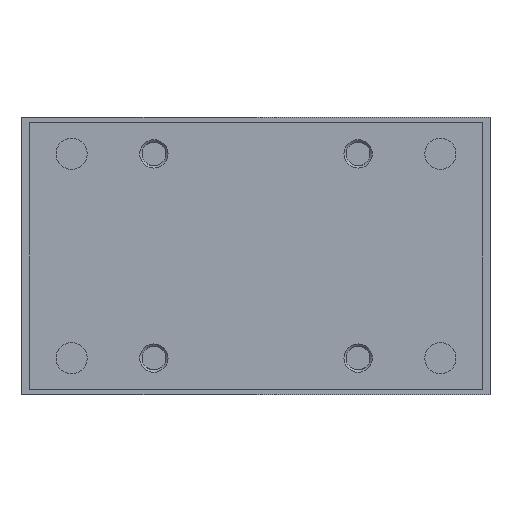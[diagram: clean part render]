
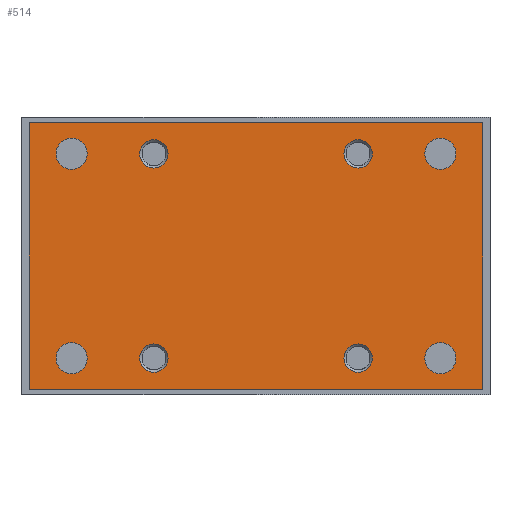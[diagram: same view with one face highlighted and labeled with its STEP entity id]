
A CAD part, left-side view. The second image highlights one B-rep face of the part: STEP entity #514.
In plain terms, the highlighted planar face has unit normal (-1, 0, 0).
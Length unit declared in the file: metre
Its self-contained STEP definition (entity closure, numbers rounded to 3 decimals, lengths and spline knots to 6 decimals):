
#514 = ADVANCED_FACE( '', ( #1238, #1239, #1240, #1241, #1242, #1243, #1244, #1245, #1246 ), #1247, .F. );
#1238 = FACE_BOUND( '', #2196, .T. );
#1239 = FACE_BOUND( '', #2197, .T. );
#1240 = FACE_BOUND( '', #2198, .T. );
#1241 = FACE_BOUND( '', #2199, .T. );
#1242 = FACE_BOUND( '', #2200, .T. );
#1243 = FACE_BOUND( '', #2201, .T. );
#1244 = FACE_BOUND( '', #2202, .T. );
#1245 = FACE_BOUND( '', #2203, .T. );
#1246 = FACE_OUTER_BOUND( '', #2204, .T. );
#1247 = PLANE( '', #2205 );
#2196 = EDGE_LOOP( '', ( #3555 ) );
#2197 = EDGE_LOOP( '', ( #3556 ) );
#2198 = EDGE_LOOP( '', ( #3557 ) );
#2199 = EDGE_LOOP( '', ( #3558 ) );
#2200 = EDGE_LOOP( '', ( #3559 ) );
#2201 = EDGE_LOOP( '', ( #3560 ) );
#2202 = EDGE_LOOP( '', ( #3561 ) );
#2203 = EDGE_LOOP( '', ( #3562 ) );
#2204 = EDGE_LOOP( '', ( #3563, #3564, #3565, #3566 ) );
#2205 = AXIS2_PLACEMENT_3D( '', #3567, #3568, #3569 );
#3555 = ORIENTED_EDGE( '', *, *, #4889, .T. );
#3556 = ORIENTED_EDGE( '', *, *, #4890, .T. );
#3557 = ORIENTED_EDGE( '', *, *, #4673, .T. );
#3558 = ORIENTED_EDGE( '', *, *, #4891, .T. );
#3559 = ORIENTED_EDGE( '', *, *, #4875, .T. );
#3560 = ORIENTED_EDGE( '', *, *, #4717, .F. );
#3561 = ORIENTED_EDGE( '', *, *, #4892, .F. );
#3562 = ORIENTED_EDGE( '', *, *, #4893, .T. );
#3563 = ORIENTED_EDGE( '', *, *, #4749, .T. );
#3564 = ORIENTED_EDGE( '', *, *, #4894, .T. );
#3565 = ORIENTED_EDGE( '', *, *, #4895, .T. );
#3566 = ORIENTED_EDGE( '', *, *, #4838, .T. );
#3567 = CARTESIAN_POINT( '', ( -0.107, -0.08, -0.096 ) );
#3568 = DIRECTION( '', ( 1., 0., 0. ) );
#3569 = DIRECTION( '', ( 0., 0., -1. ) );
#4673 = EDGE_CURVE( '', #5463, #5463, #5464, .T. );
#4717 = EDGE_CURVE( '', #5535, #5535, #5536, .T. );
#4749 = EDGE_CURVE( '', #5583, #5581, #5584, .T. );
#4838 = EDGE_CURVE( '', #5713, #5583, #5714, .T. );
#4875 = EDGE_CURVE( '', #5766, #5766, #5767, .T. );
#4889 = EDGE_CURVE( '', #5783, #5783, #5784, .T. );
#4890 = EDGE_CURVE( '', #5785, #5785, #5786, .T. );
#4891 = EDGE_CURVE( '', #5787, #5787, #5788, .T. );
#4892 = EDGE_CURVE( '', #5789, #5789, #5790, .T. );
#4893 = EDGE_CURVE( '', #5791, #5791, #5792, .T. );
#4894 = EDGE_CURVE( '', #5581, #5793, #5794, .T. );
#4895 = EDGE_CURVE( '', #5793, #5713, #5795, .T. );
#5463 = VERTEX_POINT( '', #6622 );
#5464 = CIRCLE( '', #6623, 0.0055 );
#5535 = VERTEX_POINT( '', #6747 );
#5536 = CIRCLE( '', #6748, 0.005 );
#5581 = VERTEX_POINT( '', #6801 );
#5583 = VERTEX_POINT( '', #6804 );
#5584 = LINE( '', #6805, #6806 );
#5713 = VERTEX_POINT( '', #6996 );
#5714 = LINE( '', #6997, #6998 );
#5766 = VERTEX_POINT( '', #7065 );
#5767 = CIRCLE( '', #7066, 0.005 );
#5783 = VERTEX_POINT( '', #7086 );
#5784 = CIRCLE( '', #7087, 0.0055 );
#5785 = VERTEX_POINT( '', #7088 );
#5786 = CIRCLE( '', #7089, 0.0055 );
#5787 = VERTEX_POINT( '', #7090 );
#5788 = CIRCLE( '', #7091, 0.0055 );
#5789 = VERTEX_POINT( '', #7092 );
#5790 = CIRCLE( '', #7093, 0.005 );
#5791 = VERTEX_POINT( '', #7094 );
#5792 = CIRCLE( '', #7095, 0.005 );
#5793 = VERTEX_POINT( '', #7096 );
#5794 = LINE( '', #7097, #7098 );
#5795 = LINE( '', #7099, #7100 );
#6622 = CARTESIAN_POINT( '', ( -0.107, -0.0595, -0.013 ) );
#6623 = AXIS2_PLACEMENT_3D( '', #7771, #7772, #7773 );
#6747 = CARTESIAN_POINT( '', ( -0.107, 0.036, -0.09 ) );
#6748 = AXIS2_PLACEMENT_3D( '', #7827, #7828, #7829 );
#6801 = CARTESIAN_POINT( '', ( -0.107, -0.08, -0.002 ) );
#6804 = CARTESIAN_POINT( '', ( -0.107, -0.08, -0.096 ) );
#6805 = CARTESIAN_POINT( '', ( -0.107, -0.08, -0.096 ) );
#6806 = VECTOR( '', #7875, 1. );
#6996 = CARTESIAN_POINT( '', ( -0.107, 0.08, -0.096 ) );
#6997 = CARTESIAN_POINT( '', ( -0.107, 0.08, -0.096 ) );
#6998 = VECTOR( '', #7979, 1. );
#7065 = CARTESIAN_POINT( '', ( -0.107, -0.036, -0.09 ) );
#7066 = AXIS2_PLACEMENT_3D( '', #8022, #8023, #8024 );
#7086 = CARTESIAN_POINT( '', ( -0.107, -0.0595, -0.085 ) );
#7087 = AXIS2_PLACEMENT_3D( '', #8035, #8036, #8037 );
#7088 = CARTESIAN_POINT( '', ( -0.107, 0.0705, -0.085 ) );
#7089 = AXIS2_PLACEMENT_3D( '', #8038, #8039, #8040 );
#7090 = CARTESIAN_POINT( '', ( -0.107, 0.0705, -0.013 ) );
#7091 = AXIS2_PLACEMENT_3D( '', #8041, #8042, #8043 );
#7092 = CARTESIAN_POINT( '', ( -0.107, -0.036, -0.008 ) );
#7093 = AXIS2_PLACEMENT_3D( '', #8044, #8045, #8046 );
#7094 = CARTESIAN_POINT( '', ( -0.107, 0.036, -0.008 ) );
#7095 = AXIS2_PLACEMENT_3D( '', #8047, #8048, #8049 );
#7096 = CARTESIAN_POINT( '', ( -0.107, 0.08, -0.002 ) );
#7097 = CARTESIAN_POINT( '', ( -0.107, -0.08, -0.002 ) );
#7098 = VECTOR( '', #8050, 1. );
#7099 = CARTESIAN_POINT( '', ( -0.107, 0.08, -0.002 ) );
#7100 = VECTOR( '', #8051, 1. );
#7771 = CARTESIAN_POINT( '', ( -0.107, -0.065, -0.013 ) );
#7772 = DIRECTION( '', ( 1., 0., 0. ) );
#7773 = DIRECTION( '', ( 0., 1., 0. ) );
#7827 = CARTESIAN_POINT( '', ( -0.107, 0.036, -0.085 ) );
#7828 = DIRECTION( '', ( -1., 0., 0. ) );
#7829 = DIRECTION( '', ( 0., 0., -1. ) );
#7875 = DIRECTION( '', ( 0., 0., 1. ) );
#7979 = DIRECTION( '', ( 0., -1., 0. ) );
#8022 = CARTESIAN_POINT( '', ( -0.107, -0.036, -0.085 ) );
#8023 = DIRECTION( '', ( 1., 0., 0. ) );
#8024 = DIRECTION( '', ( 0., 0., -1. ) );
#8035 = CARTESIAN_POINT( '', ( -0.107, -0.065, -0.085 ) );
#8036 = DIRECTION( '', ( 1., 0., 0. ) );
#8037 = DIRECTION( '', ( 0., 1., 0. ) );
#8038 = CARTESIAN_POINT( '', ( -0.107, 0.065, -0.085 ) );
#8039 = DIRECTION( '', ( 1., 0., 0. ) );
#8040 = DIRECTION( '', ( 0., 1., 0. ) );
#8041 = CARTESIAN_POINT( '', ( -0.107, 0.065, -0.013 ) );
#8042 = DIRECTION( '', ( 1., 0., 0. ) );
#8043 = DIRECTION( '', ( 0., 1., 0. ) );
#8044 = CARTESIAN_POINT( '', ( -0.107, -0.036, -0.013 ) );
#8045 = DIRECTION( '', ( -1., 0., 0. ) );
#8046 = DIRECTION( '', ( 0., 0., 1. ) );
#8047 = CARTESIAN_POINT( '', ( -0.107, 0.036, -0.013 ) );
#8048 = DIRECTION( '', ( 1., 0., 0. ) );
#8049 = DIRECTION( '', ( 0., 0., 1. ) );
#8050 = DIRECTION( '', ( 0., 1., 0. ) );
#8051 = DIRECTION( '', ( 0., 0., -1. ) );
